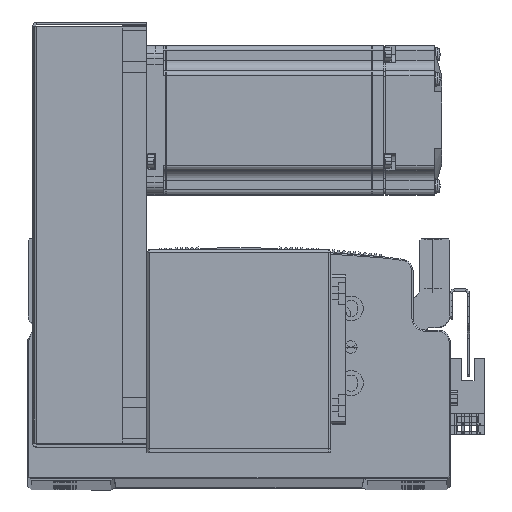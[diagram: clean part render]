
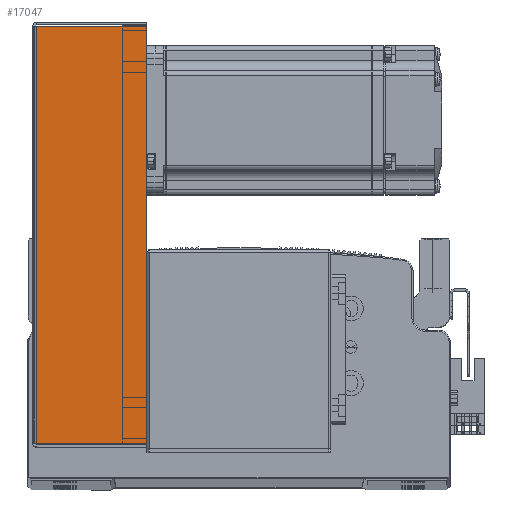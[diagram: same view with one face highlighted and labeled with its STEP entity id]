
A CAD part, top view. The second image highlights one B-rep face of the part: STEP entity #17047.
In plain terms, the highlighted planar face has unit normal (0, 0, 1) as drawn and (0, 0, -1) by its records, which use the part's own axes.
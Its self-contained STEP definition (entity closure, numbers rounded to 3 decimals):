
#11294 = EDGE_LOOP ( 'NONE', ( #60710, #60999, #60944, #60987 ) ) ;
#17047 = ADVANCED_FACE ( 'NONE', ( #85069 ), #91562, .F. ) ;
#38471 = AXIS2_PLACEMENT_3D ( 'NONE', #91544, #91530, #91536 ) ;
#44279 = CARTESIAN_POINT ( 'NONE',  ( -83.793, 0.737, -40.5 ) ) ;
#44304 = CARTESIAN_POINT ( 'NONE',  ( -83.793, 45., -40.5 ) ) ;
#44379 = CARTESIAN_POINT ( 'NONE',  ( 83.793, 45., -40.5 ) ) ;
#44411 = CARTESIAN_POINT ( 'NONE',  ( 83.793, 0.737, -40.5 ) ) ;
#60710 = ORIENTED_EDGE ( 'NONE', *, *, #86593, .F. ) ;
#60944 = ORIENTED_EDGE ( 'NONE', *, *, #86547, .T. ) ;
#60987 = ORIENTED_EDGE ( 'NONE', *, *, #86597, .F. ) ;
#60999 = ORIENTED_EDGE ( 'NONE', *, *, #86580, .T. ) ;
#62275 = VERTEX_POINT ( 'NONE', #44304 ) ;
#62299 = VERTEX_POINT ( 'NONE', #44279 ) ;
#62325 = VERTEX_POINT ( 'NONE', #44411 ) ;
#62366 = VERTEX_POINT ( 'NONE', #44379 ) ;
#85069 = FACE_OUTER_BOUND ( 'NONE', #11294, .T. ) ;
#86547 = EDGE_CURVE ( 'NONE', #62275, #62366, #88635, .T. ) ;
#86580 = EDGE_CURVE ( 'NONE', #62299, #62275, #88688, .T. ) ;
#86593 = EDGE_CURVE ( 'NONE', #62299, #62325, #88660, .T. ) ;
#86597 = EDGE_CURVE ( 'NONE', #62325, #62366, #88752, .T. ) ;
#88615 = VECTOR ( 'NONE', #89816, 1000. ) ;
#88635 = LINE ( 'NONE', #89821, #88615 ) ;
#88656 = VECTOR ( 'NONE', #89930, 1000. ) ;
#88660 = LINE ( 'NONE', #89964, #88664 ) ;
#88664 = VECTOR ( 'NONE', #89974, 1000. ) ;
#88688 = LINE ( 'NONE', #89929, #88656 ) ;
#88715 = VECTOR ( 'NONE', #89957, 1000. ) ;
#88752 = LINE ( 'NONE', #89973, #88715 ) ;
#89816 = DIRECTION ( 'NONE',  ( 1., 0., 0. ) ) ;
#89821 = CARTESIAN_POINT ( 'NONE',  ( 84.5, 45., -40.5 ) ) ;
#89929 = CARTESIAN_POINT ( 'NONE',  ( -83.793, 0., -40.5 ) ) ;
#89930 = DIRECTION ( 'NONE',  ( 0., 1., 0. ) ) ;
#89957 = DIRECTION ( 'NONE',  ( 0., 1., 0. ) ) ;
#89964 = CARTESIAN_POINT ( 'NONE',  ( 0., 0.737, -40.5 ) ) ;
#89973 = CARTESIAN_POINT ( 'NONE',  ( 83.793, 0., -40.5 ) ) ;
#89974 = DIRECTION ( 'NONE',  ( 1., 0., 0. ) ) ;
#91530 = DIRECTION ( 'NONE',  ( 0., 0., 1. ) ) ;
#91536 = DIRECTION ( 'NONE',  ( 0., -1., 0. ) ) ;
#91544 = CARTESIAN_POINT ( 'NONE',  ( 0., 0., -40.5 ) ) ;
#91562 = PLANE ( 'NONE',  #38471 ) ;
